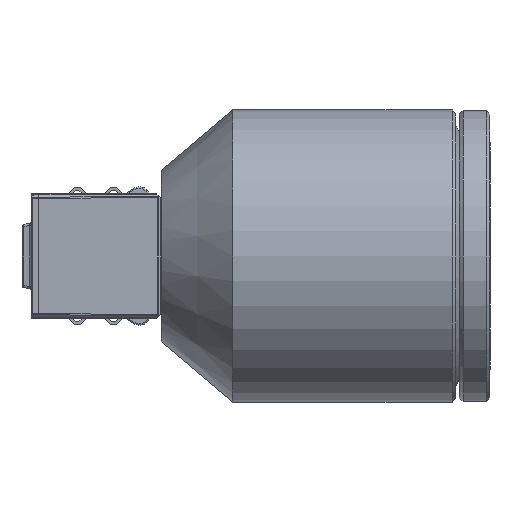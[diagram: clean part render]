
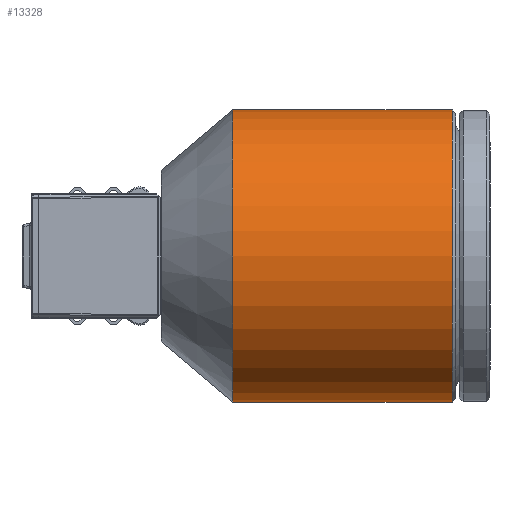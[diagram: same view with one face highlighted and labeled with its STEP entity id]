
A CAD part, left-side view. The second image highlights one B-rep face of the part: STEP entity #13328.
In plain terms, the highlighted cylindrical face has radius 19 mm (diameter 38 mm), a partial arc.
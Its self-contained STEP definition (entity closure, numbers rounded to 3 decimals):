
#107 = DIRECTION ( 'NONE',  ( 0., -1., 0. ) ) ;
#375 = VECTOR ( 'NONE', #107, 1000. ) ;
#904 = CIRCLE ( 'NONE', #1690, 19. ) ;
#1106 = VECTOR ( 'NONE', #39577, 1000. ) ;
#1690 = AXIS2_PLACEMENT_3D ( 'NONE', #36026, #16590, #40539 ) ;
#3122 = CARTESIAN_POINT ( 'NONE',  ( 88.502, -23.023, 0. ) ) ;
#11041 = VERTEX_POINT ( 'NONE', #42528 ) ;
#12670 = EDGE_CURVE ( 'NONE', #36707, #27307, #44538, .T. ) ;
#13328 = ADVANCED_FACE ( 'NONE', ( #26012 ), #42236, .T. ) ;
#16590 = DIRECTION ( 'NONE',  ( 0., -1., 0. ) ) ;
#17446 = CARTESIAN_POINT ( 'NONE',  ( 88.502, 5.483, 19. ) ) ;
#19899 = ORIENTED_EDGE ( 'NONE', *, *, #48855, .F. ) ;
#21206 = CARTESIAN_POINT ( 'NONE',  ( 88.502, -23.023, -19. ) ) ;
#26012 = FACE_OUTER_BOUND ( 'NONE', #28762, .T. ) ;
#27307 = VERTEX_POINT ( 'NONE', #21206 ) ;
#28456 = CARTESIAN_POINT ( 'NONE',  ( 88.502, -27.963, -19. ) ) ;
#28762 = EDGE_LOOP ( 'NONE', ( #19899, #39051, #35144, #48530 ) ) ;
#30328 = CARTESIAN_POINT ( 'NONE',  ( 88.502, -27.963, 19. ) ) ;
#30932 = DIRECTION ( 'NONE',  ( 0., 0., -1. ) ) ;
#33966 = CARTESIAN_POINT ( 'NONE',  ( 88.502, -27.963, 0. ) ) ;
#34970 = CIRCLE ( 'NONE', #42331, 19. ) ;
#35144 = ORIENTED_EDGE ( 'NONE', *, *, #12670, .T. ) ;
#35199 = CARTESIAN_POINT ( 'NONE',  ( 88.502, 5.483, -19. ) ) ;
#36026 = CARTESIAN_POINT ( 'NONE',  ( 88.502, 5.483, 0. ) ) ;
#36707 = VERTEX_POINT ( 'NONE', #35199 ) ;
#38671 = DIRECTION ( 'NONE',  ( 0., 0., -1. ) ) ;
#39051 = ORIENTED_EDGE ( 'NONE', *, *, #52927, .T. ) ;
#39577 = DIRECTION ( 'NONE',  ( 0., -1., 0. ) ) ;
#40539 = DIRECTION ( 'NONE',  ( 0., 0., -1. ) ) ;
#41214 = VERTEX_POINT ( 'NONE', #17446 ) ;
#42236 = CYLINDRICAL_SURFACE ( 'NONE', #52530, 19. ) ;
#42331 = AXIS2_PLACEMENT_3D ( 'NONE', #3122, #49632, #30932 ) ;
#42528 = CARTESIAN_POINT ( 'NONE',  ( 88.502, -23.023, 19. ) ) ;
#42941 = EDGE_CURVE ( 'NONE', #11041, #27307, #34970, .T. ) ;
#44538 = LINE ( 'NONE', #28456, #375 ) ;
#48530 = ORIENTED_EDGE ( 'NONE', *, *, #42941, .F. ) ;
#48855 = EDGE_CURVE ( 'NONE', #41214, #11041, #54148, .T. ) ;
#49632 = DIRECTION ( 'NONE',  ( 0., -1., 0. ) ) ;
#52530 = AXIS2_PLACEMENT_3D ( 'NONE', #33966, #53079, #38671 ) ;
#52927 = EDGE_CURVE ( 'NONE', #41214, #36707, #904, .T. ) ;
#53079 = DIRECTION ( 'NONE',  ( 0., -1., 0. ) ) ;
#54148 = LINE ( 'NONE', #30328, #1106 ) ;
